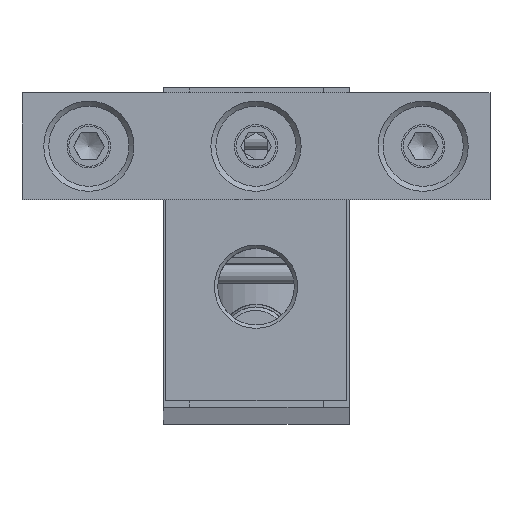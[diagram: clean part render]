
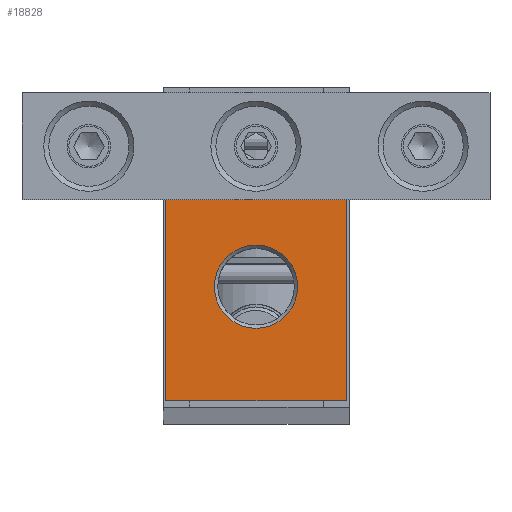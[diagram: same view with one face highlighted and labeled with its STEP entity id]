
A CAD part, top view. The second image highlights one B-rep face of the part: STEP entity #18828.
In plain terms, the highlighted planar face has unit normal (0, 0, 1).
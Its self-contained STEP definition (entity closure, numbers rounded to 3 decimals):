
#1309=LINE('',#36477,#2162);
#1326=LINE('',#36510,#2179);
#1333=LINE('',#36528,#2186);
#1336=LINE('',#36564,#2189);
#2162=VECTOR('',#26122,10.);
#2179=VECTOR('',#26145,10.);
#2186=VECTOR('',#26168,10.);
#2189=VECTOR('',#26181,10.);
#2922=FACE_BOUND('',#4954,.T.);
#3742=FACE_OUTER_BOUND('',#4953,.T.);
#4953=EDGE_LOOP('',(#15468,#15469,#15470,#15471));
#4954=EDGE_LOOP('',(#15472));
#6399=CIRCLE('',#21126,6.223);
#8224=VERTEX_POINT('',#36474);
#8225=VERTEX_POINT('',#36476);
#8237=VERTEX_POINT('',#36507);
#8238=VERTEX_POINT('',#36509);
#8248=VERTEX_POINT('',#36565);
#10724=EDGE_CURVE('',#8224,#8225,#1309,.T.);
#10741=EDGE_CURVE('',#8237,#8238,#1326,.T.);
#10752=EDGE_CURVE('',#8237,#8225,#1333,.T.);
#10760=EDGE_CURVE('',#8224,#8238,#1336,.T.);
#10761=EDGE_CURVE('',#8248,#8248,#6399,.T.);
#15468=ORIENTED_EDGE('',*,*,#10760,.T.);
#15469=ORIENTED_EDGE('',*,*,#10741,.F.);
#15470=ORIENTED_EDGE('',*,*,#10752,.T.);
#15471=ORIENTED_EDGE('',*,*,#10724,.F.);
#15472=ORIENTED_EDGE('',*,*,#10761,.F.);
#16915=PLANE('',#21125);
#18828=ADVANCED_FACE('',(#3742,#2922),#16915,.T.);
#21125=AXIS2_PLACEMENT_3D('',#36563,#26179,#26180);
#21126=AXIS2_PLACEMENT_3D('',#36566,#26182,#26183);
#26122=DIRECTION('',(0.,-1.,0.));
#26145=DIRECTION('',(0.,1.,0.));
#26168=DIRECTION('',(1.,0.,0.));
#26179=DIRECTION('center_axis',(0.,0.,
1.));
#26180=DIRECTION('ref_axis',(0.,-1.,0.));
#26181=DIRECTION('',(-1.,0.,0.));
#26182=DIRECTION('center_axis',(0.,0.,
1.));
#26183=DIRECTION('ref_axis',(-1.,0.,0.));
#36474=CARTESIAN_POINT('',(13.45,7.1,390.));
#36476=CARTESIAN_POINT('',(13.45,-22.9,390.));
#36477=CARTESIAN_POINT('',(13.45,23.1,390.));
#36507=CARTESIAN_POINT('',(-13.55,-22.9,390.));
#36509=CARTESIAN_POINT('',(-13.55,7.1,390.));
#36510=CARTESIAN_POINT('',(-13.55,23.1,390.));
#36528=CARTESIAN_POINT('',(-0.05,-22.9,390.));
#36563=CARTESIAN_POINT('Origin',(-0.05,23.1,390.));
#36564=CARTESIAN_POINT('',(-17.55,7.1,390.));
#36565=CARTESIAN_POINT('',(6.172,-5.9,390.));
#36566=CARTESIAN_POINT('Origin',(-0.05,-5.9,
390.));
